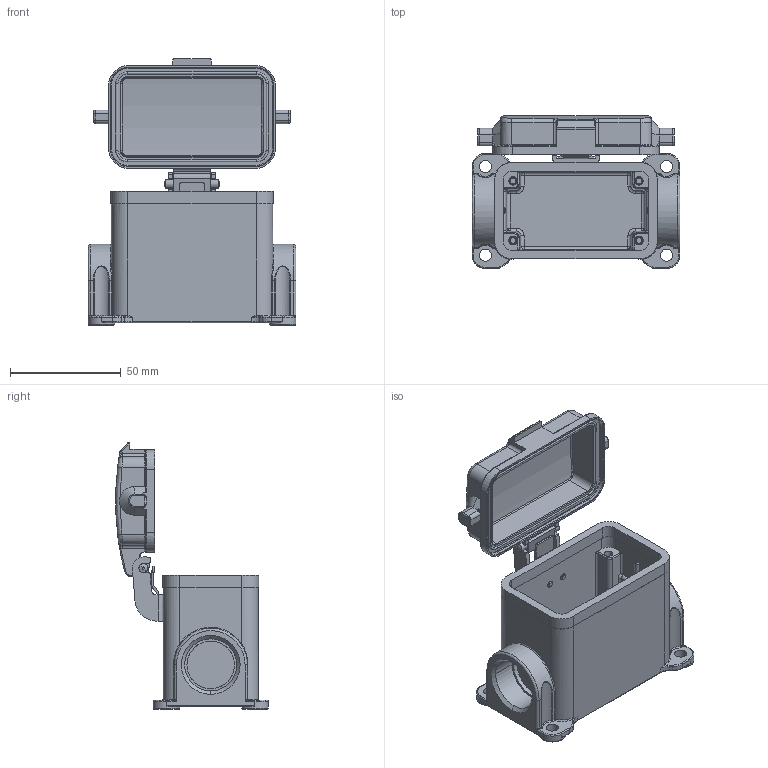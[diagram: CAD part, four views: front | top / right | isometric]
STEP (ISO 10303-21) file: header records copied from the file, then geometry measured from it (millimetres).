
FILE_DESCRIPTION (( 'STEP AP203' ), '1' );
FILE_NAME ('H10B-SDR-BO-M25 8-5.STEP', '2020-08-06T08:57:58', ( '' ), ( '' ), 'SwSTEP 2.0', 'SolidWorks 2016', '' );
FILE_SCHEMA (( 'CONFIG_CONTROL_DESIGN' ));
Length unit declared in the file: millimetre
Products named in the file (8): spring; H10-SDR-BO 菁釱 8-5; chaxiao; baohugai-lianjiekou_5; H10B-SDR-BO-M25 8-5; 10bmifengquan; baohugailuosi; 0000101120
Assembly tree (8 placements, depth 2):
  H10B-SDR-BO-M25 8-5
    10bmifengquan
    chaxiao
    baohugai-lianjiekou_5
    spring
    baohugailuosi  x2
    0000101120
    H10-SDR-BO 菁釱 8-5
Bounding box: 94 x 68.94 x 120.4 mm (x, y, z)
Volume: 91731.8 mm3; surface area: 57676 mm2
Topology: 8 solids, 8 shells, 1007 faces, 2427 edges, 1459 vertices
Faces by surface type: cylinder 427, bspline 274, plane 243, cone 63
Entity records: 87896 total; most frequent: CARTESIAN_POINT 67355, ORIENTED_EDGE 4428, DIRECTION 3735, EDGE_CURVE 2214, AXIS2_PLACEMENT_3D 1395, VERTEX_POINT 1333, EDGE_LOOP 965, VECTOR 945
